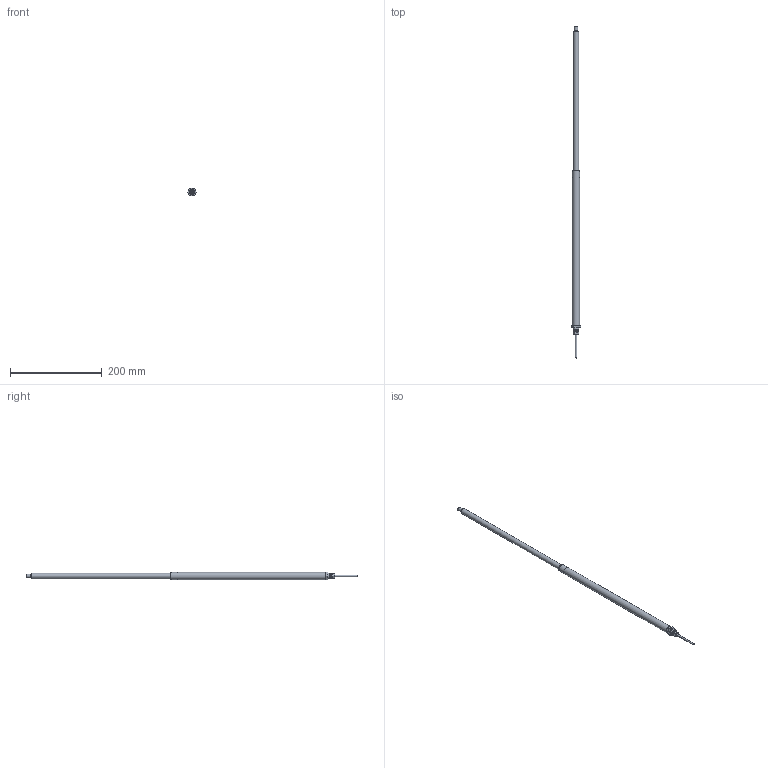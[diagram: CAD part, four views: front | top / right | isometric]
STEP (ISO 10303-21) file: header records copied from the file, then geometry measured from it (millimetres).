
FILE_DESCRIPTION(/* description */ ('Unknown'),/* implementation_level */ '2;1');
FILE_NAME(/* name */ '107.00133 Zylinder CG 1430_ausgefahren',/* time_stamp */ '2018-06-15T14:51:51+02:00',/* author */ ('Unknown'),/* organization */ ('Unknown'),/* preprocessor_version */ 'ST-DEVELOPER v16.7',/* originating_system */ 'DEX',/* authorisation */ $);
FILE_SCHEMA (('AUTOMOTIVE_DESIGN {1 0 10303 214 3 1 1}'));
Length unit declared in the file: millimetre
Products named in the file (9): 107.00133; 121.00003; 142.00021; 125.00021; 115.00007_oa_0; 125.00031; 120.00023; 122.00001; 113.00002_70mm
Assembly tree (8 placements, depth 2):
  107.00133
    121.00003
    142.00021
    125.00021
    115.00007_oa_0
    125.00031
    120.00023
    122.00001
    113.00002_70mm
Bounding box: 19.63 x 723 x 17 mm (x, y, z)
Volume: 57278 mm3; surface area: 49959.4 mm2
Topology: 7 solids, 7 shells, 95 faces, 187 edges, 118 vertices
Faces by surface type: plane 38, cylinder 28, cone 23, torus 5, sphere 1
Full cylindrical faces by diameter (mm): 2.2 x1, 3.5 x1, 4 x1, 4.1 x1, 4.2 x1, 6 x1, 6.917 x2, 7.763 x2, 8 x4, 8.1 x3, 9 x1, 12 x2, 12.5 x1, 13 x2, 13.9 x2, 14 x2, 16 x1
Entity records: 2880 total; most frequent: DIRECTION 402, CARTESIAN_POINT 377, ORIENTED_EDGE 254, AXIS2_PLACEMENT_3D 183, FACE_BOUND 169, EDGE_LOOP 168, EDGE_CURVE 127, VERTEX_POINT 110
